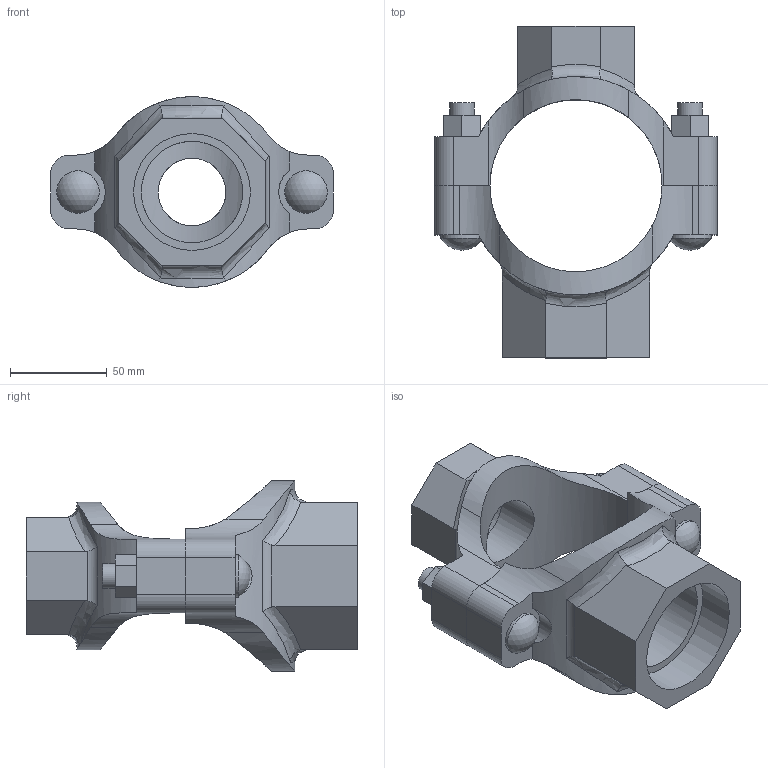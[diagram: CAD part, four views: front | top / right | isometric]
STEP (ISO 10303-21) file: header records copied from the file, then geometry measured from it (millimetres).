
FILE_DESCRIPTION(/* description */ ('VIC MECH-T BRANCH OUTLET CROSS STYLE 920N (THD)','CAx-IF Rec.Pracs.---Representation and Presentation of Product Manufacturing Information (PMI)---4.0---2014-10-13'),/* implementation_level */ '2;1');
FILE_NAME(/* name */ 'C:\Users\Vjadhav\AppData\Roaming\Autodesk\ApplicationPlugins\Back Up\Victaulic_IPS_Mechanical-Cross Outlet_Style 920N (FPT)\Victaulic_IPS_Mechanical-Cross Outlet_03.0x01.25x02.0 (80x32x50).stp',/* time_stamp */ '2020-08-06T18:57:40+05:00',/* author */ ('Vjadhav'),/* organization */ ('Victaulic'),/* preprocessor_version */ 'ST-DEVELOPER v17.2',/* originating_system */ 'Autodesk Inventor 2019',/* authorisation */ '');
FILE_SCHEMA (('AP242_MANAGED_MODEL_BASED_3D_ENGINEERING_MIM_LF { 1 0 10303 442 1 1 4 }'));
Length unit declared in the file: inch
Products named in the file (3): 920NT-03.0x01.25x02.0; 920NT-03.0x01.25; 920NT-03.0x02.0
Assembly tree (2 placements, depth 2):
  920NT-03.0x01.25x02.0
    920NT-03.0x01.25
    920NT-03.0x02.0
Bounding box: 146.05 x 171.45 x 98.52 mm (x, y, z)
Volume: 396537.6 mm3; surface area: 91323.2 mm2
Topology: 2 solids, 2 shells, 135 faces, 362 edges, 244 vertices
Faces by surface type: plane 68, cylinder 53, bspline 8, torus 4, sphere 2
Full cylindrical faces by diameter (mm): 12.7 x4, 21.982 x2, 34.925 x1, 42.164 x1, 52.387 x1, 60.325 x1
Entity records: 5321 total; most frequent: CARTESIAN_POINT 1730, ORIENTED_EDGE 724, DIRECTION 654, EDGE_CURVE 362, VERTEX_POINT 244, AXIS2_PLACEMENT_3D 234, LINE 186, VECTOR 186
